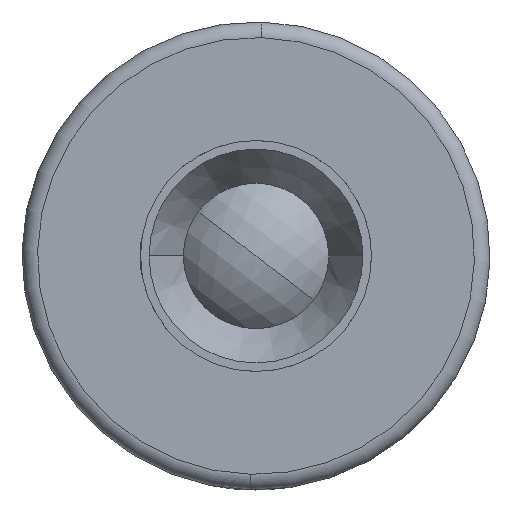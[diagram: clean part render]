
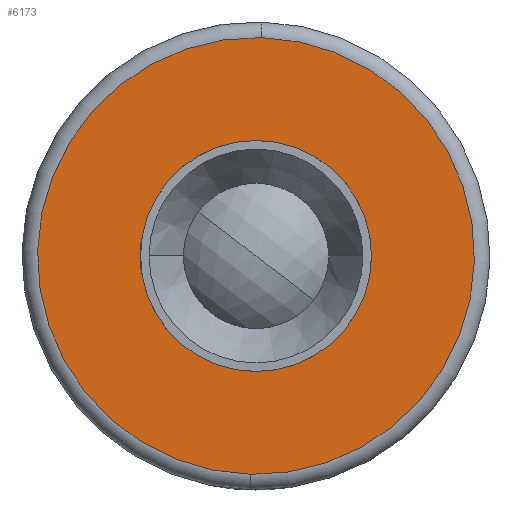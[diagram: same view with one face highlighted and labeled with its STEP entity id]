
A CAD part, front view. The second image highlights one B-rep face of the part: STEP entity #6173.
In plain terms, the highlighted planar face has unit normal (0, -1, 0).
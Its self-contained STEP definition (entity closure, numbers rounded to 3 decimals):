
#39 = EDGE_LOOP ( 'NONE', ( #9837, #5740 ) ) ;
#69 = CIRCLE ( 'NONE', #10769, 5.1 ) ;
#417 = AXIS2_PLACEMENT_3D ( 'NONE', #7214, #2018, #5504 ) ;
#931 = CARTESIAN_POINT ( 'NONE',  ( 0., 0., 5.1 ) ) ;
#1117 = DIRECTION ( 'NONE',  ( 0., 0., 1. ) ) ;
#1271 = ORIENTED_EDGE ( 'NONE', *, *, #2230, .F. ) ;
#1310 = CARTESIAN_POINT ( 'NONE',  ( 0., 0., 0. ) ) ;
#1947 = DIRECTION ( 'NONE',  ( 0., 1., 0. ) ) ;
#2018 = DIRECTION ( 'NONE',  ( 0., -1., 0. ) ) ;
#2094 = DIRECTION ( 'NONE',  ( 0., -1., 0. ) ) ;
#2208 = CIRCLE ( 'NONE', #417, 35. ) ;
#2230 = EDGE_CURVE ( 'NONE', #5834, #4051, #5345, .T. ) ;
#2646 = CARTESIAN_POINT ( 'NONE',  ( 0., 0., -35. ) ) ;
#3596 = DIRECTION ( 'NONE',  ( 0., -1., 0. ) ) ;
#4051 = VERTEX_POINT ( 'NONE', #931 ) ;
#4308 = AXIS2_PLACEMENT_3D ( 'NONE', #4392, #3596, #9578 ) ;
#4392 = CARTESIAN_POINT ( 'NONE',  ( 0., 0., 0. ) ) ;
#4608 = FACE_OUTER_BOUND ( 'NONE', #39, .T. ) ;
#5044 = EDGE_LOOP ( 'NONE', ( #1271, #10311 ) ) ;
#5345 = CIRCLE ( 'NONE', #9092, 5.1 ) ;
#5504 = DIRECTION ( 'NONE',  ( 0., 0., 1. ) ) ;
#5740 = ORIENTED_EDGE ( 'NONE', *, *, #7961, .T. ) ;
#5834 = VERTEX_POINT ( 'NONE', #6912 ) ;
#6173 = ADVANCED_FACE ( 'NONE', ( #9829, #4608 ), #6247, .F. ) ;
#6207 = CARTESIAN_POINT ( 'NONE',  ( 0., 0., 0. ) ) ;
#6247 = PLANE ( 'NONE',  #8536 ) ;
#6421 = DIRECTION ( 'NONE',  ( 0., -1., 0. ) ) ;
#6912 = CARTESIAN_POINT ( 'NONE',  ( 0., 0., -5.1 ) ) ;
#7214 = CARTESIAN_POINT ( 'NONE',  ( 0., 0., 0. ) ) ;
#7450 = CIRCLE ( 'NONE', #4308, 35. ) ;
#7668 = EDGE_CURVE ( 'NONE', #9567, #9180, #7450, .T. ) ;
#7898 = CARTESIAN_POINT ( 'NONE',  ( 0., 0., 35. ) ) ;
#7961 = EDGE_CURVE ( 'NONE', #9180, #9567, #2208, .T. ) ;
#8536 = AXIS2_PLACEMENT_3D ( 'NONE', #6207, #1947, #1117 ) ;
#8970 = CARTESIAN_POINT ( 'NONE',  ( 0., 0., 0. ) ) ;
#9092 = AXIS2_PLACEMENT_3D ( 'NONE', #8970, #6421, #10731 ) ;
#9180 = VERTEX_POINT ( 'NONE', #2646 ) ;
#9567 = VERTEX_POINT ( 'NONE', #7898 ) ;
#9574 = EDGE_CURVE ( 'NONE', #4051, #5834, #69, .T. ) ;
#9578 = DIRECTION ( 'NONE',  ( 0., 0., 1. ) ) ;
#9829 = FACE_BOUND ( 'NONE', #5044, .T. ) ;
#9837 = ORIENTED_EDGE ( 'NONE', *, *, #7668, .T. ) ;
#9871 = DIRECTION ( 'NONE',  ( 0., 0., -1. ) ) ;
#10311 = ORIENTED_EDGE ( 'NONE', *, *, #9574, .F. ) ;
#10731 = DIRECTION ( 'NONE',  ( 0., 0., -1. ) ) ;
#10769 = AXIS2_PLACEMENT_3D ( 'NONE', #1310, #2094, #9871 ) ;
